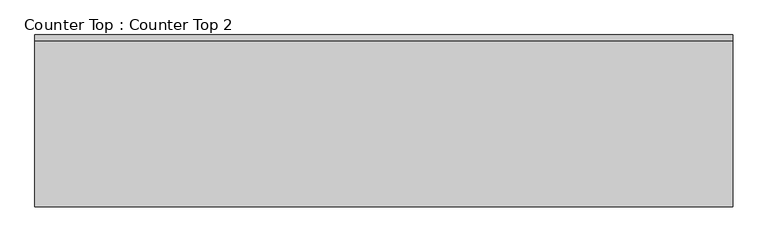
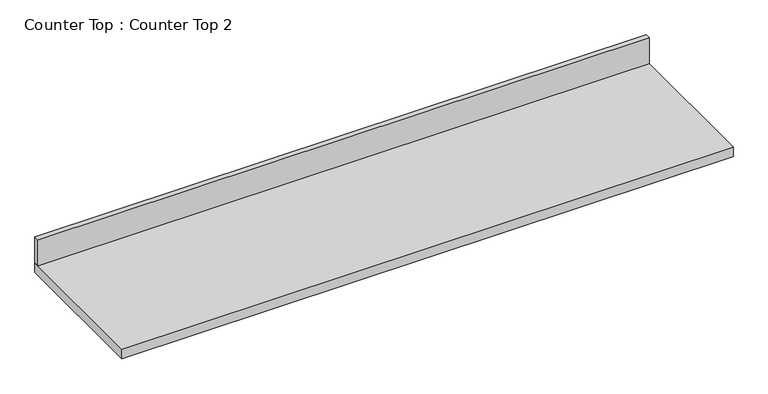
"""IFC4 building model written with IfcOpenShell, lengths in millimetres: furniture geometry, Counter Top : Counter Top 2."""

import ifcopenshell
import ifcopenshell.guid

model = None  # the IFC model being written
_history = None  # IfcOwnerHistory: only IFC2X3 demands one
_inside = {}  # id of a spatial element -> (the spatial element, [elements in it])
_under = {}  # id of a project, library or spatial element -> (it, [spatial elements below it])
_declared = {}  # id of a project -> (the project, [libraries it declares])
_typed = {}  # id of a type object -> (the type object, [elements of that type])
_made_of = {}  # id of a material, layer set ... -> (it, [elements and type objects made of it])


def new_model(schema):
    """Start an empty IFC model of exactly this schema.

    Asked for "IFC4X3", IfcOpenShell would pick the latest addendum, in which some entities
    have other attributes; the version numbers below select the first issue.
    IFC2X3 requires an IfcOwnerHistory on every rooted entity: one is made here for all.
    """
    global model, _history
    if schema == "IFC4X3":
        model = ifcopenshell.file(schema_version=(4, 3, 0, 0))
    else:
        model = ifcopenshell.file(schema=schema)
    _inside.clear()
    _under.clear()
    _declared.clear()
    _typed.clear()
    _made_of.clear()
    _history = None
    if model.schema == "IFC2X3":
        org = make("IfcOrganization", Name="unknown")
        user = make(
            "IfcPersonAndOrganization",
            ThePerson=make("IfcPerson", FamilyName="unknown"),
            TheOrganization=org,
        )
        app = make(
            "IfcApplication",
            ApplicationDeveloper=org,
            Version="unknown",
            ApplicationFullName="unknown",
            ApplicationIdentifier="unknown",
        )
        _history = make(
            "IfcOwnerHistory",
            OwningUser=user,
            OwningApplication=app,
            ChangeAction="ADDED",
            CreationDate=0,
        )
    return model


def make(cls, **values):
    """One entity of the class cls with the attributes given. An attribute that is None is left unset."""
    return model.create_entity(
        cls, **{name: value for name, value in values.items() if value is not None}
    )


def rooted(cls, **values):
    """An entity with a GlobalId (a new one), such as an element, a storey or a relation."""
    return make(cls, GlobalId=ifcopenshell.guid.new(), OwnerHistory=_history, **values)


def si_unit(unit_type, name, prefix=None):
    """IfcSIUnit, for example si_unit("LENGTHUNIT", "METRE", prefix="MILLI")."""
    return make("IfcSIUnit", UnitType=unit_type, Prefix=prefix, Name=name)


def assignment(units):
    """IfcUnitAssignment: the units of a project."""
    return None if units is None else make("IfcUnitAssignment", Units=units)


def point(xyz):
    """IfcCartesianPoint."""
    return None if xyz is None else make("IfcCartesianPoint", Coordinates=xyz)


def direction(xyz):
    """IfcDirection."""
    return None if xyz is None else make("IfcDirection", DirectionRatios=xyz)


def frame(location, z_axis=None, x_axis=None):
    """IfcAxis2Placement3D, a coordinate frame: its origin and axes. An axis left out is left unset."""
    return make(
        "IfcAxis2Placement3D",
        Location=point(location),
        Axis=direction(z_axis),
        RefDirection=direction(x_axis),
    )


def origin():
    """The frame at (0, 0, 0) with its axes left unset."""
    return frame((0.0, 0.0, 0.0))


def place(relative_to, where):
    """IfcLocalPlacement: puts the frame where relative to a parent placement (None: the world)."""
    return make(
        "IfcLocalPlacement", PlacementRelTo=relative_to, RelativePlacement=where
    )


def context(
    kind, dimensions, precision=None, world=None, true_north=None, identifier=None
):
    """IfcGeometricRepresentationContext, for example the 3D "Model" context."""
    return make(
        "IfcGeometricRepresentationContext",
        ContextIdentifier=identifier,
        ContextType=kind,
        CoordinateSpaceDimension=dimensions,
        Precision=precision,
        WorldCoordinateSystem=world,
        TrueNorth=true_north,
    )


def project(units=None, contexts=None):
    """IfcProject with its units and contexts."""
    return rooted(
        "IfcProject",
        Name="project",
        RepresentationContexts=contexts,
        UnitsInContext=assignment(units),
    )


def spatial(cls, under=None, at=None, **own):
    """A site, building, storey or space (cls), placed at a placement, below another one or the project."""
    s = rooted(cls, ObjectPlacement=at, **own)
    if under is not None:
        _under.setdefault(under.id(), (under, []))[1].append(s)
    return s


def polyline(points):
    """IfcPolyline through the points."""
    return make("IfcPolyline", Points=[point(p) for p in points])


def outline(outer, holes=None, kind="AREA"):
    """IfcArbitraryClosedProfileDef: a profile drawn as a closed curve; with holes, ...WithVoids."""
    if holes is None:
        return make("IfcArbitraryClosedProfileDef", ProfileType=kind, OuterCurve=outer)
    return make(
        "IfcArbitraryProfileDefWithVoids",
        ProfileType=kind,
        OuterCurve=outer,
        InnerCurves=holes,
    )


def extrude(swept, where, along, depth):
    """IfcExtrudedAreaSolid: the profile swept, set in the frame where, extruded along a direction by depth."""
    return make(
        "IfcExtrudedAreaSolid",
        SweptArea=swept,
        Position=where,
        ExtrudedDirection=direction(along),
        Depth=depth,
    )


def shape(context_of_items, identifier, shape_type, items):
    """IfcShapeRepresentation: the items that make up one representation, for example the "Body"."""
    return make(
        "IfcShapeRepresentation",
        ContextOfItems=context_of_items,
        RepresentationIdentifier=identifier,
        RepresentationType=shape_type,
        Items=items,
    )


def source(mapping_origin, context_of_items, identifier, shape_type, items):
    """IfcRepresentationMap: a shape defined once, which mapped items show again and again."""
    return make(
        "IfcRepresentationMap",
        MappingOrigin=mapping_origin,
        MappedRepresentation=shape(context_of_items, identifier, shape_type, items),
    )


def transform(
    local_origin,
    x_axis=None,
    y_axis=None,
    z_axis=None,
    scale=None,
    scale2=None,
    scale3=None,
    uniform=True,
):
    """IfcCartesianTransformationOperator3D, or its non-uniform kind. x_axis, y_axis, z_axis: its Axis1, 2, 3."""
    if uniform:
        return make(
            "IfcCartesianTransformationOperator3D",
            Axis1=direction(x_axis),
            Axis2=direction(y_axis),
            LocalOrigin=point(local_origin),
            Scale=scale,
            Axis3=direction(z_axis),
        )
    return make(
        "IfcCartesianTransformationOperator3DnonUniform",
        Axis1=direction(x_axis),
        Axis2=direction(y_axis),
        LocalOrigin=point(local_origin),
        Scale=scale,
        Axis3=direction(z_axis),
        Scale2=scale2,
        Scale3=scale3,
    )


def mapped(mapping_source, mapping_target):
    """IfcMappedItem: shows the shape of a source again, moved by a transform."""
    return make(
        "IfcMappedItem", MappingSource=mapping_source, MappingTarget=mapping_target
    )


def made_of(thing, what):
    """Note that an element or type object is made of a material, layer set ...; save() writes the relation."""
    if what is not None:
        _made_of.setdefault(what.id(), (what, []))[1].append(thing)
    return thing


def element(
    cls,
    number,
    at=None,
    inside=None,
    cuts=None,
    type_object=None,
    material=None,
    context=None,
    identifier="Body",
    shape_type=None,
    held_by="IfcProductDefinitionShape",
    body=None,
    shapes=None,
    **own,
):
    """One element of the class cls, such as IfcWall. Its Tag is "e" and its number.

    at: its placement. inside: the storey or other place that contains it. cuts: it is an
    opening in that element (IfcRelVoidsElement). A single representation is given by context,
    identifier, shape_type and body (its items); several are given by shapes. held_by: the class
    of the entity that holds the representations. save() writes the other relations.
    """
    e = rooted(cls, Tag="e%d" % number, ObjectPlacement=at, **own)
    if body is not None:
        shapes = [shape(context, identifier, shape_type, body)]
    if shapes is not None:
        e.Representation = make(held_by, Representations=shapes)
    if inside is not None:
        _inside.setdefault(inside.id(), (inside, []))[1].append(e)
    if cuts is not None:
        rooted(
            "IfcRelVoidsElement", RelatingBuildingElement=cuts, RelatedOpeningElement=e
        )
    if type_object is not None:
        _typed.setdefault(type_object.id(), (type_object, []))[1].append(e)
    return made_of(e, material)


def aggregate(whole, parts):
    """IfcRelAggregates: a whole, such as a stair, and the parts it consists of."""
    return rooted("IfcRelAggregates", RelatingObject=whole, RelatedObjects=parts)


def save(model, path):
    """Write the relations noted so far, then the file.

    IfcRelAggregates (storeys below a building ...), IfcRelContainedInSpatialStructure (elements
    in a storey), IfcRelDefinesByType, IfcRelAssociatesMaterial and IfcRelDeclares: one each for
    every whole, place, type object, material and project.
    """
    for whole, parts in _under.values():
        aggregate(whole, parts)
    for where, things in _inside.values():
        rooted(
            "IfcRelContainedInSpatialStructure",
            RelatedElements=things,
            RelatingStructure=where,
        )
    for kind, things in _typed.values():
        rooted("IfcRelDefinesByType", RelatedObjects=things, RelatingType=kind)
    for what, things in _made_of.values():
        rooted("IfcRelAssociatesMaterial", RelatedObjects=things, RelatingMaterial=what)
    for by, libraries in _declared.values():
        rooted("IfcRelDeclares", RelatingContext=by, RelatedDefinitions=libraries)
    model.write(path)


def counter_top_counter_top_2_d2a73151(model_context):
    return source(origin(), model_context, "Body", "SweptSolid", [
        extrude(outline(polyline([(-1200.4622951, 0.0), (1066.7236591, 0.0), (1066.7236591, -19.05), (-1200.4622951, -19.05), (-1200.4622951, 0.0)])), frame((0.0, 0.0, 914.4), z_axis=(0.0, 0.0, 1.0), x_axis=(1.0, 0.0, 0.0)), (0.0, 0.0, 1.0), 101.6),
        extrude(outline(polyline([(1066.7236591, 0.0), (1066.7236591, -558.8), (-1200.4622951, -558.8), (-1200.4622951, 0.0), (1066.7236591, 0.0)])), frame((0.0, 0.0, 876.3), z_axis=(0.0, 0.0, 1.0), x_axis=(1.0, 0.0, 0.0)), (0.0, 0.0, 1.0), 38.1),
    ])


if __name__ == "__main__":
    model = new_model("IFC4")
    model_context = context("Model", 3, world=origin())
    ifc_project = project(units=[si_unit("LENGTHUNIT", "METRE", prefix="MILLI")], contexts=[model_context])
    site = spatial("IfcSite", under=ifc_project)
    building = spatial("IfcBuilding", under=site)
    placement = place(None, origin())
    counter_top_counter_top_2_shape = counter_top_counter_top_2_d2a73151(model_context)
    element("IfcFurniture", 1, ObjectType="Counter Top : Counter Top 2", at=placement, inside=building, context=model_context, shape_type="MappedRepresentation", body=[
        mapped(counter_top_counter_top_2_shape, transform((0.0, 0.0, 0.0), x_axis=(1.0, 0.0, 0.0), y_axis=(0.0, 1.0, 0.0), z_axis=(0.0, 0.0, 1.0))),
    ])
    save(model, "model.ifc")
